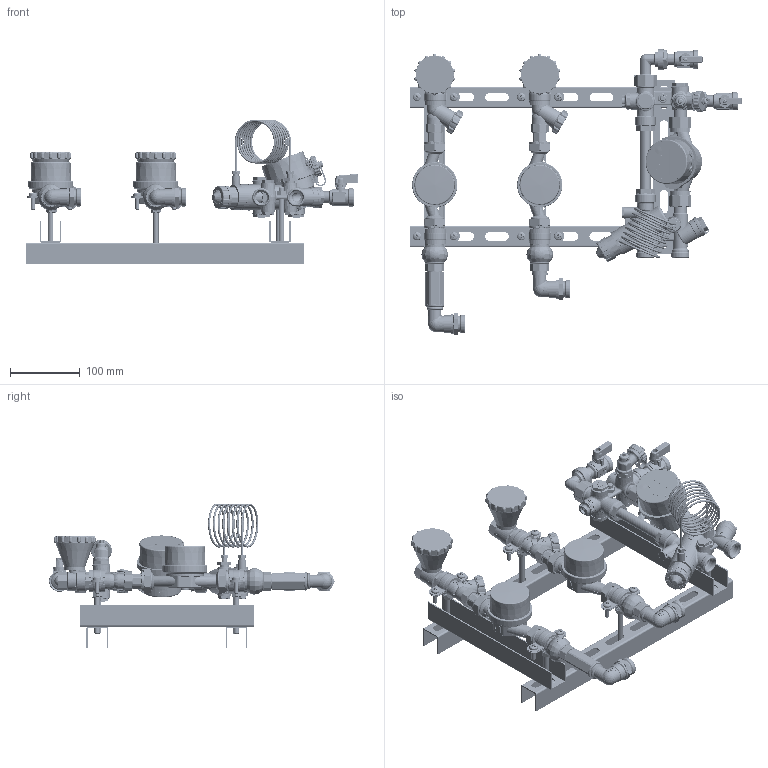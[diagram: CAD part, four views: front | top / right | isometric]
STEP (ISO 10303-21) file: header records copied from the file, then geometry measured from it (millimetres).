
FILE_DESCRIPTION(('STEP AP242'), '1');
FILE_NAME('覆.494726.002.000 捘 - VT.LM.H0.M0', '', ('UNSPECIFIED'), ('UNSPECIFIED'), 'C3D Converter', 'C3D Toolkit', '');
FILE_SCHEMA(('AP242_MANAGED_MODEL_BASED_3D_ENGINEERING_MIM_LF { 1 0 10303 442 1 1 4 }'));
Length unit declared in the file: millimetre
Products named in the file (202): ВР.494726.002.000 СБ; ВР.494726.004.000 СБ; ВР.494726.002.001 СБ; ВР.130300.003; ВР.407223.001.000 СБ; ВР.407223.001.002 СБ; ВР.731464.002; ВР.753182.016; ВР.714411.001; ВР.715113.003; ВР.407223.001.002.002 СБ; ВР.753192.014; ВР.715113.002; ВР.711141.021; ВР.713121.002; ВР.711141.022; ВР.407223.001.002.001 СБ; ВР.753181.009; ВР.713141.002; ВР.711141.023; ВР.711242.002; ВР.725113.002; ВР.752676.002; ВР.711123.001; ВР.407223.001.002.003 СБ; ВР.753125.009; ВР.712351.012; ВР.407223.001.001 СБ; ВР.407223.001.001.001 СБ; ВР.753191.017; ВР.741334.001; ВР.711112.001; ВР.711112.002; ВР.753191.016; ВР.714313.001; ВР.741331.001; ВР.714341.001; ВР.714621.003; ВР.305321.001.000 СБ; ВР.712351.001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
Assembly tree (258 placements, depth 8):
  ВР.494726.002.000 СБ
    ВР.494726.004.000 СБ
      ВР.494726.002.001 СБ
        ВР.130300.003
        ВР.407223.001.000 СБ
          ВР.407223.001.002 СБ
            ВР.731464.002
            ВР.753182.016
            ВР.714411.001
              ВР.715113.003
            ВР.407223.001.002.002 СБ
              ВР.753192.014
                ВР.715113.002
              ВР.711141.021
              ВР.713121.002
            ВР.711141.022
            ВР.407223.001.002.001 СБ
              ВР.753181.009
              ВР.713141.002
            (unnamed)
            ВР.711141.023
            ВР.711242.002
            ВР.725113.002
            ВР.752676.002
            ВР.711123.001  x2
            ВР.407223.001.002.003 СБ
              ВР.753125.009
              (unnamed)
          ВР.712351.012
          ВР.407223.001.001 СБ
            ВР.407223.001.001.001 СБ
              ВР.753191.017
              ВР.741334.001
              ВР.711112.001
            ВР.711112.002
            ВР.753191.016
            (unnamed)
            ВР.714313.001
            ВР.741331.001
            (unnamed)  x3
            ВР.714341.001  x2
            ВР.714621.003
        ВР.305321.001.000 СБ  x2
          ВР.712351.001
          ВР.714671.001
        ВР.758422.004  x2
        ВР.494726.002.001.002 СБ
          ВР.731371.001
          ВР.725140.002
          (unnamed)
            ВР.753125.023
            (unnamed)
          ВР.758421.046
          ВР.753612.008
          ВР.305319.007.000 СБ
            ВР.753125.011
            (unnamed)
          ВР.305319.008.000 СБ  x2
            ВР.753125.012
            (unnamed)
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Bounding box: 477.22 x 410.89 x 207.7 mm (x, y, z)
Volume: 1202981.1 mm3; surface area: 1031932.5 mm2
Topology: 311 solids, 315 shells, 25793 faces, 69603 edges, 45781 vertices
Faces by surface type: plane 9925, extrusion 7082, cylinder 5573, cone 1496, bspline 946, torus 689, sphere 82
Full cylindrical faces by diameter (mm): 0.4 x4, 0.6 x23, 0.7 x2, 0.8 x12, 1 x12, 1.1 x308, 1.2 x23, 1.3 x15, 1.5 x53, 1.55 x2, 1.6 x23, 1.66 x4, 1.7 x3, 1.8 x10, 1.9 x5, 2 x33, 2.1 x3, 2.2 x11, 2.3 x3, 2.4 x2, 2.5 x7, 2.8 x1, 3 x69, 3.1 x2, 3.242 x2, 3.4 x35, 3.5 x8, 3.6 x5, 3.8 x5, 4 x11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
Entity records: 659736 total; most frequent: CARTESIAN_POINT 312745, ORIENTED_EDGE 71986, DIRECTION 55470, EDGE_CURVE 35995, VERTEX_POINT 24395, VECTOR 20478, AXIS2_PLACEMENT_3D 17496, EDGE_LOOP 16962
